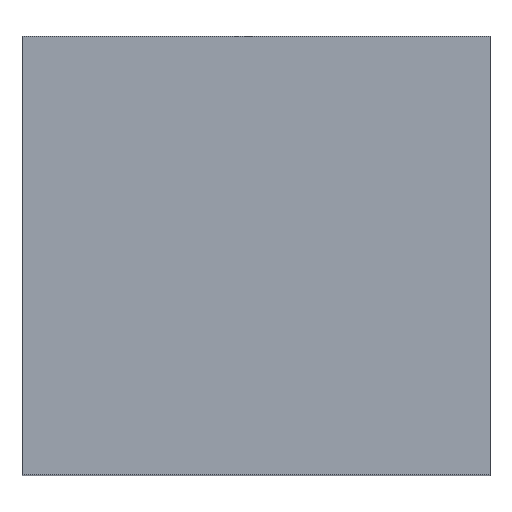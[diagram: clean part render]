
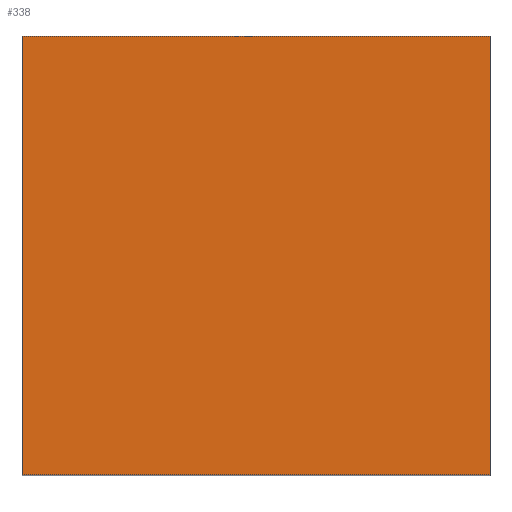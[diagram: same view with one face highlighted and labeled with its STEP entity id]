
A CAD part, top view. The second image highlights one B-rep face of the part: STEP entity #338.
In plain terms, the highlighted planar face has unit normal (0, 0, 1).
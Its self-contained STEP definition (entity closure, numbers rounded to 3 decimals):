
#24 = VERTEX_POINT('',#25);
#25 = CARTESIAN_POINT('',(28.53,1.45,6.562));
#32 = PLANE('',#33);
#33 = AXIS2_PLACEMENT_3D('',#34,#35,#36);
#34 = CARTESIAN_POINT('',(28.53,1.45,-8.762));
#35 = DIRECTION('',(1.,0.,-0.));
#36 = DIRECTION('',(0.,0.,1.));
#44 = PLANE('',#45);
#45 = AXIS2_PLACEMENT_3D('',#46,#47,#48);
#46 = CARTESIAN_POINT('',(28.53,1.45,-8.762));
#47 = DIRECTION('',(-0.,1.,0.));
#48 = DIRECTION('',(0.,0.,1.));
#85 = VERTEX_POINT('',#86);
#86 = CARTESIAN_POINT('',(28.53,17.993,6.562));
#100 = PLANE('',#101);
#101 = AXIS2_PLACEMENT_3D('',#102,#103,#104);
#102 = CARTESIAN_POINT('',(28.53,17.993,-8.762));
#103 = DIRECTION('',(-0.,1.,0.));
#104 = DIRECTION('',(0.,0.,1.));
#112 = EDGE_CURVE('',#24,#85,#113,.T.);
#113 = SURFACE_CURVE('',#114,(#118,#125),.PCURVE_S1.);
#114 = LINE('',#115,#116);
#115 = CARTESIAN_POINT('',(28.53,1.45,6.562));
#116 = VECTOR('',#117,1.);
#117 = DIRECTION('',(-0.,1.,0.));
#118 = PCURVE('',#32,#119);
#119 = DEFINITIONAL_REPRESENTATION('',(#120),#124);
#120 = LINE('',#121,#122);
#121 = CARTESIAN_POINT('',(15.325,0.));
#122 = VECTOR('',#123,1.);
#123 = DIRECTION('',(0.,-1.));
#124 = ( GEOMETRIC_REPRESENTATION_CONTEXT(2) 
PARAMETRIC_REPRESENTATION_CONTEXT() REPRESENTATION_CONTEXT('2D SPACE',''
  ) );
#125 = PCURVE('',#126,#131);
#126 = PLANE('',#127);
#127 = AXIS2_PLACEMENT_3D('',#128,#129,#130);
#128 = CARTESIAN_POINT('',(28.53,1.45,6.562));
#129 = DIRECTION('',(0.,0.,1.));
#130 = DIRECTION('',(1.,0.,-0.));
#131 = DEFINITIONAL_REPRESENTATION('',(#132),#136);
#132 = LINE('',#133,#134);
#133 = CARTESIAN_POINT('',(0.,0.));
#134 = VECTOR('',#135,1.);
#135 = DIRECTION('',(0.,1.));
#136 = ( GEOMETRIC_REPRESENTATION_CONTEXT(2) 
PARAMETRIC_REPRESENTATION_CONTEXT() REPRESENTATION_CONTEXT('2D SPACE',''
  ) );
#144 = VERTEX_POINT('',#145);
#145 = CARTESIAN_POINT('',(46.18,1.45,6.562));
#152 = PLANE('',#153);
#153 = AXIS2_PLACEMENT_3D('',#154,#155,#156);
#154 = CARTESIAN_POINT('',(46.18,1.45,-8.762));
#155 = DIRECTION('',(1.,0.,-0.));
#156 = DIRECTION('',(0.,0.,1.));
#195 = VERTEX_POINT('',#196);
#196 = CARTESIAN_POINT('',(46.18,17.993,6.562));
#217 = EDGE_CURVE('',#144,#195,#218,.T.);
#218 = SURFACE_CURVE('',#219,(#223,#230),.PCURVE_S1.);
#219 = LINE('',#220,#221);
#220 = CARTESIAN_POINT('',(46.18,1.45,6.562));
#221 = VECTOR('',#222,1.);
#222 = DIRECTION('',(-0.,1.,0.));
#223 = PCURVE('',#152,#224);
#224 = DEFINITIONAL_REPRESENTATION('',(#225),#229);
#225 = LINE('',#226,#227);
#226 = CARTESIAN_POINT('',(15.325,0.));
#227 = VECTOR('',#228,1.);
#228 = DIRECTION('',(0.,-1.));
#229 = ( GEOMETRIC_REPRESENTATION_CONTEXT(2) 
PARAMETRIC_REPRESENTATION_CONTEXT() REPRESENTATION_CONTEXT('2D SPACE',''
  ) );
#230 = PCURVE('',#126,#231);
#231 = DEFINITIONAL_REPRESENTATION('',(#232),#236);
#232 = LINE('',#233,#234);
#233 = CARTESIAN_POINT('',(17.65,0.));
#234 = VECTOR('',#235,1.);
#235 = DIRECTION('',(0.,1.));
#236 = ( GEOMETRIC_REPRESENTATION_CONTEXT(2) 
PARAMETRIC_REPRESENTATION_CONTEXT() REPRESENTATION_CONTEXT('2D SPACE',''
  ) );
#263 = EDGE_CURVE('',#24,#144,#264,.T.);
#264 = SURFACE_CURVE('',#265,(#269,#276),.PCURVE_S1.);
#265 = LINE('',#266,#267);
#266 = CARTESIAN_POINT('',(28.53,1.45,6.562));
#267 = VECTOR('',#268,1.);
#268 = DIRECTION('',(1.,0.,-0.));
#269 = PCURVE('',#44,#270);
#270 = DEFINITIONAL_REPRESENTATION('',(#271),#275);
#271 = LINE('',#272,#273);
#272 = CARTESIAN_POINT('',(15.325,0.));
#273 = VECTOR('',#274,1.);
#274 = DIRECTION('',(0.,1.));
#275 = ( GEOMETRIC_REPRESENTATION_CONTEXT(2) 
PARAMETRIC_REPRESENTATION_CONTEXT() REPRESENTATION_CONTEXT('2D SPACE',''
  ) );
#276 = PCURVE('',#126,#277);
#277 = DEFINITIONAL_REPRESENTATION('',(#278),#282);
#278 = LINE('',#279,#280);
#279 = CARTESIAN_POINT('',(0.,0.));
#280 = VECTOR('',#281,1.);
#281 = DIRECTION('',(1.,0.));
#282 = ( GEOMETRIC_REPRESENTATION_CONTEXT(2) 
PARAMETRIC_REPRESENTATION_CONTEXT() REPRESENTATION_CONTEXT('2D SPACE',''
  ) );
#310 = EDGE_CURVE('',#85,#195,#311,.T.);
#311 = SURFACE_CURVE('',#312,(#316,#323),.PCURVE_S1.);
#312 = LINE('',#313,#314);
#313 = CARTESIAN_POINT('',(28.53,17.993,6.562));
#314 = VECTOR('',#315,1.);
#315 = DIRECTION('',(1.,0.,-0.));
#316 = PCURVE('',#100,#317);
#317 = DEFINITIONAL_REPRESENTATION('',(#318),#322);
#318 = LINE('',#319,#320);
#319 = CARTESIAN_POINT('',(15.325,0.));
#320 = VECTOR('',#321,1.);
#321 = DIRECTION('',(0.,1.));
#322 = ( GEOMETRIC_REPRESENTATION_CONTEXT(2) 
PARAMETRIC_REPRESENTATION_CONTEXT() REPRESENTATION_CONTEXT('2D SPACE',''
  ) );
#323 = PCURVE('',#126,#324);
#324 = DEFINITIONAL_REPRESENTATION('',(#325),#329);
#325 = LINE('',#326,#327);
#326 = CARTESIAN_POINT('',(0.,16.543));
#327 = VECTOR('',#328,1.);
#328 = DIRECTION('',(1.,0.));
#329 = ( GEOMETRIC_REPRESENTATION_CONTEXT(2) 
PARAMETRIC_REPRESENTATION_CONTEXT() REPRESENTATION_CONTEXT('2D SPACE',''
  ) );
#338 = ADVANCED_FACE('',(#339),#126,.T.);
#339 = FACE_BOUND('',#340,.T.);
#340 = EDGE_LOOP('',(#341,#342,#343,#344));
#341 = ORIENTED_EDGE('',*,*,#112,.F.);
#342 = ORIENTED_EDGE('',*,*,#263,.T.);
#343 = ORIENTED_EDGE('',*,*,#217,.T.);
#344 = ORIENTED_EDGE('',*,*,#310,.F.);
